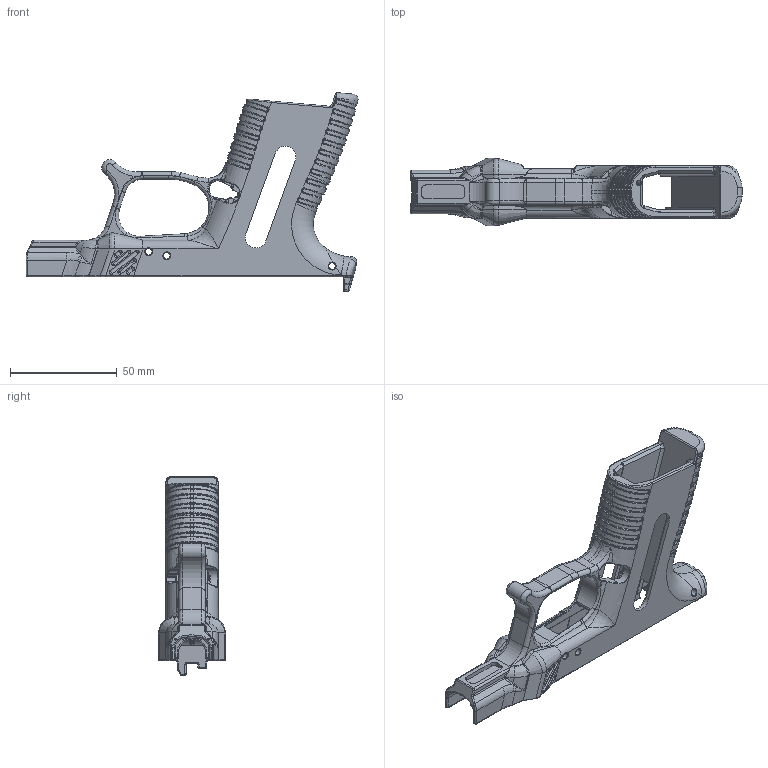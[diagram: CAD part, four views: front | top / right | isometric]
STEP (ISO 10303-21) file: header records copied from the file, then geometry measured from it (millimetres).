
FILE_DESCRIPTION(/* description */ (''),/* implementation_level */ '2;1');
FILE_NAME(/* name */ 'G:/Developer/Repos/Shield9-ASP2.1/STEP/Frame.step',/* time_stamp */ '2020-12-14T21:35:05-05:00',/* author */ (''),/* organization */ (''),/* preprocessor_version */ 'ST-DEVELOPER v18.1',/* originating_system */ 'Autodesk Translation Framework v9.7.1.1290',/* authorisation */ '');
FILE_SCHEMA (('AUTOMOTIVE_DESIGN { 1 0 10303 214 3 1 1 }'));
Products named in the file (1): Frame (1)
Bounding box: 155.35 x 31.41 x 92.92 mm (x, y, z)
Volume: 62347.9 mm3; surface area: 33021.3 mm2
Topology: 1 solids, 1 shells, 1997 faces, 4705 edges, 2648 vertices
Faces by surface type: bspline 845, cylinder 548, torus 286, plane 240, sphere 56, cone 22
Full cylindrical faces by diameter (mm): 1.7 x1, 2 x1, 3.175 x6, 5.715 x1
Entity records: 88113 total; most frequent: CARTESIAN_POINT 45738, ORIENTED_EDGE 9282, DIRECTION 8292, EDGE_CURVE 4641, AXIS2_PLACEMENT_3D 3479, VERTEX_POINT 2647, EDGE_LOOP 2024, FACE_OUTER_BOUND 1996
